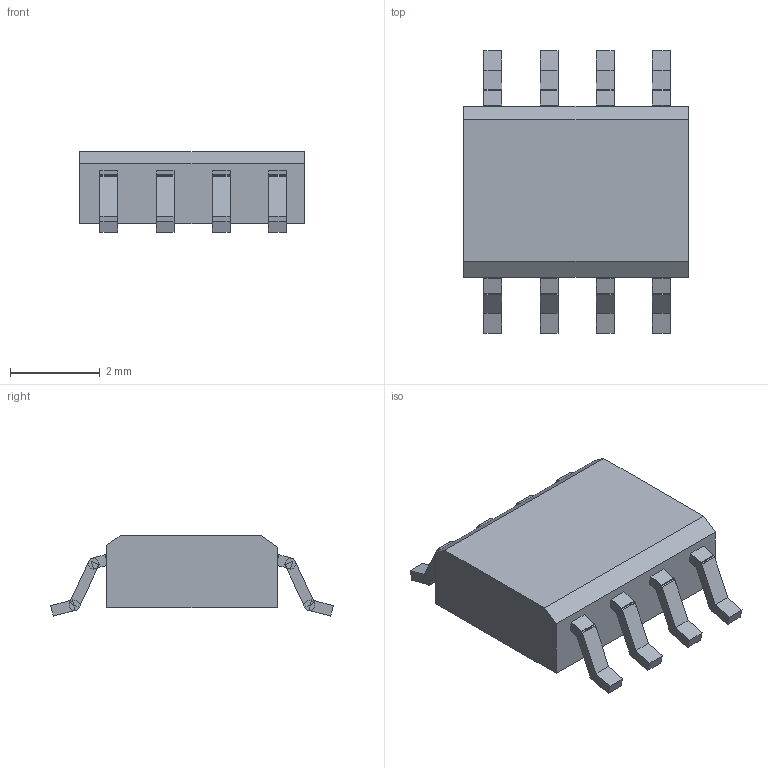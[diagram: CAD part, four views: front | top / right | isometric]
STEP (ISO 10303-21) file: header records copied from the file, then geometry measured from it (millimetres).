
FILE_DESCRIPTION(('FreeCAD Model'),'2;1');
FILE_NAME('Open CASCADE Shape Model','2021-06-28T19:54:45',('Author'),( ''),'Open CASCADE STEP processor 7.5','FreeCAD','Unknown');
FILE_SCHEMA(('AUTOMOTIVE_DESIGN { 1 0 10303 214 1 1 1 1 }'));
Length unit declared in the file: millimetre
Products named in the file (1): Group009
Bounding box: 5 x 6.29 x 1.78 mm (x, y, z)
Volume: 31.4 mm3; surface area: 83.9 mm2
Topology: 1 solids, 1 shells, 400 faces, 1474 edges, 1084 vertices
Faces by surface type: plane 400
Entity records: 37520 total; most frequent: CARTESIAN_POINT 6083, DIRECTION 5048, LINE 4246, VECTOR 4246, ORIENTED_EDGE 2948, PCURVE 2948, DEFINITIONAL_REPRESENTATION 2948, EDGE_CURVE 1474
